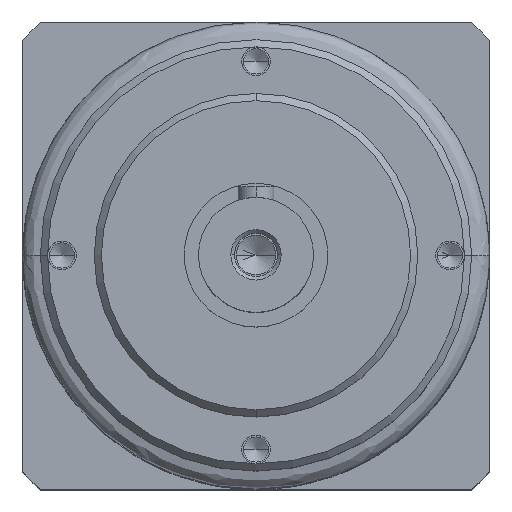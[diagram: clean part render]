
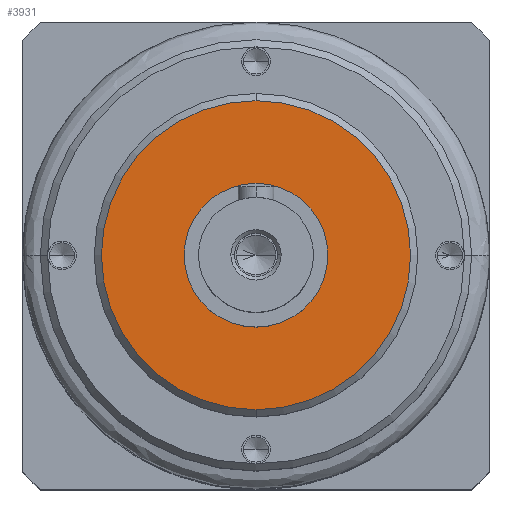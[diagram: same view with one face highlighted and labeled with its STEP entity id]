
A CAD part, top view. The second image highlights one B-rep face of the part: STEP entity #3931.
In plain terms, the highlighted planar face has unit normal (0, 0, 1).
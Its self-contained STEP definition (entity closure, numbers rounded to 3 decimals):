
#904 = ORIENTED_EDGE ( 'NONE', *, *, #8281, .F. ) ;
#1574 = ORIENTED_EDGE ( 'NONE', *, *, #1714, .F. ) ;
#1714 = EDGE_CURVE ( 'NONE', #10715, #2153, #12998, .T. ) ;
#1963 = CARTESIAN_POINT ( 'NONE',  ( 0., 0., 17.5 ) ) ;
#2153 = VERTEX_POINT ( 'NONE', #4873 ) ;
#2356 = DIRECTION ( 'NONE',  ( 0., 0., -1. ) ) ;
#2426 = DIRECTION ( 'NONE',  ( -1., 0., 0. ) ) ;
#3931 = ADVANCED_FACE ( 'NONE', ( #8451, #12134 ), #10697, .F. ) ;
#4389 = CARTESIAN_POINT ( 'NONE',  ( 0., -43., 17.5 ) ) ;
#4609 = CARTESIAN_POINT ( 'NONE',  ( 0., 0., 17.5 ) ) ;
#4873 = CARTESIAN_POINT ( 'NONE',  ( -20., 0., 17.5 ) ) ;
#6120 = EDGE_CURVE ( 'NONE', #6974, #8592, #12872, .T. ) ;
#6341 = DIRECTION ( 'NONE',  ( 0., 1., 0. ) ) ;
#6390 = CARTESIAN_POINT ( 'NONE',  ( 20., 0., 17.5 ) ) ;
#6974 = VERTEX_POINT ( 'NONE', #4389 ) ;
#7240 = DIRECTION ( 'NONE',  ( 0., 1., 0. ) ) ;
#7497 = CARTESIAN_POINT ( 'NONE',  ( 0., 0., 17.5 ) ) ;
#7613 = CIRCLE ( 'NONE', #7849, 43. ) ;
#7849 = AXIS2_PLACEMENT_3D ( 'NONE', #12154, #13178, #7240 ) ;
#8281 = EDGE_CURVE ( 'NONE', #8592, #6974, #7613, .T. ) ;
#8382 = AXIS2_PLACEMENT_3D ( 'NONE', #12692, #9746, #12776 ) ;
#8451 = FACE_BOUND ( 'NONE', #9496, .T. ) ;
#8592 = VERTEX_POINT ( 'NONE', #10044 ) ;
#8798 = CIRCLE ( 'NONE', #8382, 20. ) ;
#8945 = ORIENTED_EDGE ( 'NONE', *, *, #6120, .F. ) ;
#9059 = DIRECTION ( 'NONE',  ( 0., 0., 1. ) ) ;
#9496 = EDGE_LOOP ( 'NONE', ( #11374, #1574 ) ) ;
#9746 = DIRECTION ( 'NONE',  ( 0., 0., 1. ) ) ;
#10044 = CARTESIAN_POINT ( 'NONE',  ( 0., 43., 17.5 ) ) ;
#10060 = AXIS2_PLACEMENT_3D ( 'NONE', #1963, #9059, #12200 ) ;
#10206 = EDGE_CURVE ( 'NONE', #2153, #10715, #8798, .T. ) ;
#10697 = PLANE ( 'NONE',  #12419 ) ;
#10715 = VERTEX_POINT ( 'NONE', #6390 ) ;
#11374 = ORIENTED_EDGE ( 'NONE', *, *, #10206, .F. ) ;
#11720 = DIRECTION ( 'NONE',  ( 0., 0., -1. ) ) ;
#12134 = FACE_OUTER_BOUND ( 'NONE', #12765, .T. ) ;
#12154 = CARTESIAN_POINT ( 'NONE',  ( 0., 0., 17.5 ) ) ;
#12200 = DIRECTION ( 'NONE',  ( -1., 0., 0. ) ) ;
#12419 = AXIS2_PLACEMENT_3D ( 'NONE', #4609, #11720, #2426 ) ;
#12692 = CARTESIAN_POINT ( 'NONE',  ( 0., 0., 17.5 ) ) ;
#12765 = EDGE_LOOP ( 'NONE', ( #904, #8945 ) ) ;
#12776 = DIRECTION ( 'NONE',  ( -1., 0., 0. ) ) ;
#12872 = CIRCLE ( 'NONE', #12937, 43. ) ;
#12937 = AXIS2_PLACEMENT_3D ( 'NONE', #7497, #2356, #6341 ) ;
#12998 = CIRCLE ( 'NONE', #10060, 20. ) ;
#13178 = DIRECTION ( 'NONE',  ( 0., 0., -1. ) ) ;
